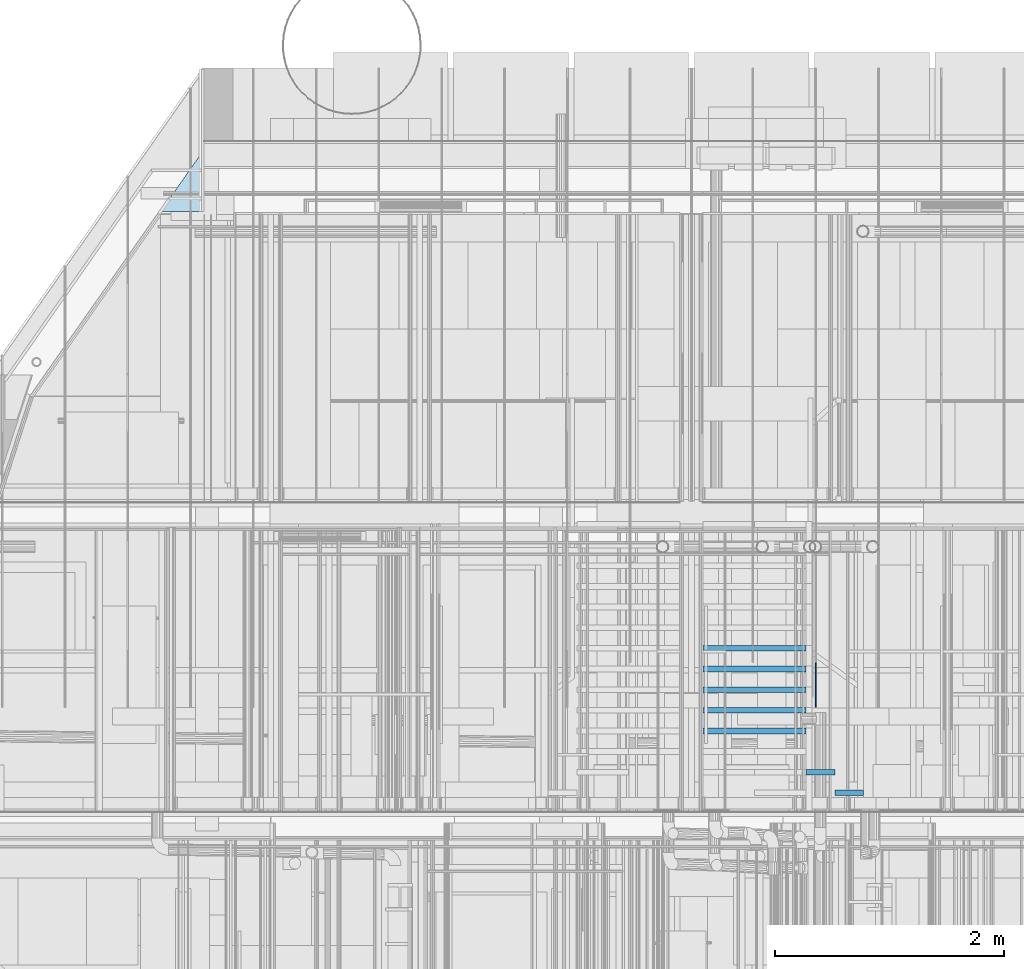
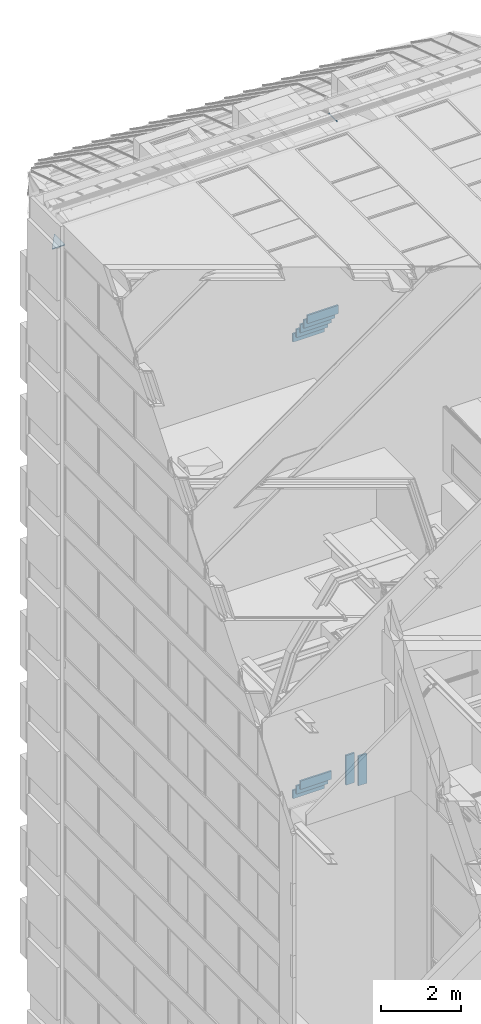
# One storey, part 308 of 583: 12 slabs.
"""IFC2X3 building model written with IfcOpenShell, lengths in metres."""

import ifcopenshell
import ifcopenshell.guid

model = None  # the IFC model being written
_history = None  # IfcOwnerHistory: only IFC2X3 demands one
_inside = {}  # id of a spatial element -> (the spatial element, [elements in it])
_under = {}  # id of a project, library or spatial element -> (it, [spatial elements below it])
_declared = {}  # id of a project -> (the project, [libraries it declares])
_typed = {}  # id of a type object -> (the type object, [elements of that type])
_made_of = {}  # id of a material, layer set ... -> (it, [elements and type objects made of it])


def new_model(schema):
    """Start an empty IFC model of exactly this schema.

    Asked for "IFC4X3", IfcOpenShell would pick the latest addendum, in which some entities
    have other attributes; the version numbers below select the first issue.
    IFC2X3 requires an IfcOwnerHistory on every rooted entity: one is made here for all.
    """
    global model, _history
    if schema == "IFC4X3":
        model = ifcopenshell.file(schema_version=(4, 3, 0, 0))
    else:
        model = ifcopenshell.file(schema=schema)
    _inside.clear()
    _under.clear()
    _declared.clear()
    _typed.clear()
    _made_of.clear()
    _history = None
    if model.schema == "IFC2X3":
        org = make("IfcOrganization", Name="unknown")
        user = make(
            "IfcPersonAndOrganization",
            ThePerson=make("IfcPerson", FamilyName="unknown"),
            TheOrganization=org,
        )
        app = make(
            "IfcApplication",
            ApplicationDeveloper=org,
            Version="unknown",
            ApplicationFullName="unknown",
            ApplicationIdentifier="unknown",
        )
        _history = make(
            "IfcOwnerHistory",
            OwningUser=user,
            OwningApplication=app,
            ChangeAction="ADDED",
            CreationDate=0,
        )
    return model


def make(cls, **values):
    """One entity of the class cls with the attributes given. An attribute that is None is left unset."""
    return model.create_entity(
        cls, **{name: value for name, value in values.items() if value is not None}
    )


def entity(cls, *values):
    """Any entity or typed value of the class cls, its attributes in the order of the schema. None: left unset."""
    e = model.create_entity(cls)
    for i, value in enumerate(values):
        if value is not None:
            e[i] = value
    return e


def rooted(cls, **values):
    """An entity with a GlobalId (a new one), such as an element, a storey or a relation."""
    return make(cls, GlobalId=ifcopenshell.guid.new(), OwnerHistory=_history, **values)


def si_unit(unit_type, name, prefix=None):
    """IfcSIUnit, for example si_unit("LENGTHUNIT", "METRE", prefix="MILLI")."""
    return make("IfcSIUnit", UnitType=unit_type, Prefix=prefix, Name=name)


def converted_unit(unit_type, name, factor, base, dimensions=None, offset=None):
    """IfcConversionBasedUnit, such as the inch: factor (a typed value) times the base unit."""
    return make(
        "IfcConversionBasedUnit"
        if offset is None
        else "IfcConversionBasedUnitWithOffset",
        ConversionOffset=offset,
        Dimensions=None
        if dimensions is None
        else entity("IfcDimensionalExponents", *dimensions),
        UnitType=unit_type,
        Name=name,
        ConversionFactor=make(
            "IfcMeasureWithUnit", ValueComponent=factor, UnitComponent=base
        ),
    )


def derived_unit(unit_type, elements):
    """IfcDerivedUnit: a product of units, each with its exponent."""
    return make(
        "IfcDerivedUnit",
        Elements=[
            make("IfcDerivedUnitElement", Unit=unit, Exponent=power)
            for unit, power in elements
        ],
        UnitType=unit_type,
    )


def money_unit(currency):
    """IfcMonetaryUnit."""
    return make("IfcMonetaryUnit", Currency=currency)


def assignment(units):
    """IfcUnitAssignment: the units of a project."""
    return None if units is None else make("IfcUnitAssignment", Units=units)


def point(xyz):
    """IfcCartesianPoint."""
    return None if xyz is None else make("IfcCartesianPoint", Coordinates=xyz)


def direction(xyz):
    """IfcDirection."""
    return None if xyz is None else make("IfcDirection", DirectionRatios=xyz)


def frame(location, z_axis=None, x_axis=None):
    """IfcAxis2Placement3D, a coordinate frame: its origin and axes. An axis left out is left unset."""
    return make(
        "IfcAxis2Placement3D",
        Location=point(location),
        Axis=direction(z_axis),
        RefDirection=direction(x_axis),
    )


def origin_with_axes():
    """The frame at (0, 0, 0) with the z axis (0, 0, 1) and the x axis (1, 0, 0) written out."""
    return frame((0.0, 0.0, 0.0), z_axis=(0.0, 0.0, 1.0), x_axis=(1.0, 0.0, 0.0))


def place(relative_to, where):
    """IfcLocalPlacement: puts the frame where relative to a parent placement (None: the world)."""
    return make(
        "IfcLocalPlacement", PlacementRelTo=relative_to, RelativePlacement=where
    )


def context(
    kind, dimensions, precision=None, world=None, true_north=None, identifier=None
):
    """IfcGeometricRepresentationContext, for example the 3D "Model" context."""
    return make(
        "IfcGeometricRepresentationContext",
        ContextIdentifier=identifier,
        ContextType=kind,
        CoordinateSpaceDimension=dimensions,
        Precision=precision,
        WorldCoordinateSystem=world,
        TrueNorth=true_north,
    )


def subcontext(parent, identifier, kind, view, scale=None):
    """IfcGeometricRepresentationSubContext, for example "Body" below "Model"."""
    return make(
        "IfcGeometricRepresentationSubContext",
        ContextIdentifier=identifier,
        ContextType=kind,
        ParentContext=parent,
        TargetScale=scale,
        TargetView=view,
    )


def project(units=None, contexts=None):
    """IfcProject with its units and contexts."""
    return rooted(
        "IfcProject",
        Name="project",
        RepresentationContexts=contexts,
        UnitsInContext=assignment(units),
    )


def spatial(cls, under=None, at=None, **own):
    """A site, building, storey or space (cls), placed at a placement, below another one or the project."""
    s = rooted(cls, ObjectPlacement=at, **own)
    if under is not None:
        _under.setdefault(under.id(), (under, []))[1].append(s)
    return s


def faces_of(points, faces, orient=None, outer=None):
    """IfcFace entities. A face is a list of loops; a loop is a list of indices into points, from 0.

    orient and outer hold one flag for each loop. By default every Orientation is true, the
    first loop of a face is its IfcFaceOuterBound and the others are IfcFaceBound.
    """
    made = []
    for i, loops in enumerate(faces):
        bounds = []
        for j, loop in enumerate(loops):
            is_outer = j == 0 if outer is None else outer[i][j]
            bounds.append(
                make(
                    "IfcFaceOuterBound" if is_outer else "IfcFaceBound",
                    Bound=make("IfcPolyLoop", Polygon=[points[k] for k in loop]),
                    Orientation=True if orient is None else orient[i][j],
                )
            )
        made.append(make("IfcFace", Bounds=bounds))
    return made


def faceted_brep(points, faces, orient=None, outer=None, voids=None):
    """IfcFacetedBrep: a solid bounded by flat faces; with voids (closed shells), ...WithVoids."""
    shared = [point(p) for p in points]
    hull = make("IfcClosedShell", CfsFaces=faces_of(shared, faces, orient, outer))
    if voids is None:
        return make("IfcFacetedBrep", Outer=hull)
    return make(
        "IfcFacetedBrepWithVoids",
        Outer=hull,
        Voids=[
            make(cls, CfsFaces=faces_of(shared, fs, o, b)) for cls, fs, o, b in voids
        ],
    )


def shape(context_of_items, identifier, shape_type, items):
    """IfcShapeRepresentation: the items that make up one representation, for example the "Body"."""
    return make(
        "IfcShapeRepresentation",
        ContextOfItems=context_of_items,
        RepresentationIdentifier=identifier,
        RepresentationType=shape_type,
        Items=items,
    )


def material(Name=None, Category=None):
    """IfcMaterial."""
    return make("IfcMaterial", Name=Name, Category=Category)


def made_of(thing, what):
    """Note that an element or type object is made of a material, layer set ...; save() writes the relation."""
    if what is not None:
        _made_of.setdefault(what.id(), (what, []))[1].append(thing)
    return thing


def type_object(cls, material=None, **own):
    """A type object (cls), such as IfcWallType, which elements share."""
    return made_of(rooted(cls, **own), material)


def element(
    cls,
    number,
    at=None,
    inside=None,
    cuts=None,
    type_object=None,
    material=None,
    context=None,
    identifier="Body",
    shape_type=None,
    held_by="IfcProductDefinitionShape",
    body=None,
    shapes=None,
    **own,
):
    """One element of the class cls, such as IfcWall. Its Tag is "e" and its number.

    at: its placement. inside: the storey or other place that contains it. cuts: it is an
    opening in that element (IfcRelVoidsElement). A single representation is given by context,
    identifier, shape_type and body (its items); several are given by shapes. held_by: the class
    of the entity that holds the representations. save() writes the other relations.
    """
    e = rooted(cls, Tag="e%d" % number, ObjectPlacement=at, **own)
    if body is not None:
        shapes = [shape(context, identifier, shape_type, body)]
    if shapes is not None:
        e.Representation = make(held_by, Representations=shapes)
    if inside is not None:
        _inside.setdefault(inside.id(), (inside, []))[1].append(e)
    if cuts is not None:
        rooted(
            "IfcRelVoidsElement", RelatingBuildingElement=cuts, RelatedOpeningElement=e
        )
    if type_object is not None:
        _typed.setdefault(type_object.id(), (type_object, []))[1].append(e)
    return made_of(e, material)


def aggregate(whole, parts):
    """IfcRelAggregates: a whole, such as a stair, and the parts it consists of."""
    return rooted("IfcRelAggregates", RelatingObject=whole, RelatedObjects=parts)


def save(model, path):
    """Write the relations noted so far, then the file.

    IfcRelAggregates (storeys below a building ...), IfcRelContainedInSpatialStructure (elements
    in a storey), IfcRelDefinesByType, IfcRelAssociatesMaterial and IfcRelDeclares: one each for
    every whole, place, type object, material and project.
    """
    for whole, parts in _under.values():
        aggregate(whole, parts)
    for where, things in _inside.values():
        rooted(
            "IfcRelContainedInSpatialStructure",
            RelatedElements=things,
            RelatingStructure=where,
        )
    for kind, things in _typed.values():
        rooted("IfcRelDefinesByType", RelatedObjects=things, RelatingType=kind)
    for what, things in _made_of.values():
        rooted("IfcRelAssociatesMaterial", RelatedObjects=things, RelatingMaterial=what)
    for by, libraries in _declared.values():
        rooted("IfcRelDeclares", RelatingContext=by, RelatedDefinitions=libraries)
    model.write(path)


model = new_model("IFC2X3")

# Units and contexts
model_context = context("Model", 3, precision=1e-05, world=origin_with_axes(), true_north=direction((0.0, 1.0)))
body_context = subcontext(model_context, "Body", "Model", "MODEL_VIEW", scale=1.0)
ifc_project = project(units=[si_unit("LENGTHUNIT", "METRE"), si_unit("AREAUNIT", "SQUARE_METRE"), si_unit("VOLUMEUNIT", "CUBIC_METRE"), si_unit("ABSORBEDDOSEUNIT", "GRAY"), si_unit("AMOUNTOFSUBSTANCEUNIT", "MOLE"), si_unit("DOSEEQUIVALENTUNIT", "SIEVERT"), si_unit("ELECTRICCAPACITANCEUNIT", "FARAD"), si_unit("ELECTRICCHARGEUNIT", "COULOMB"), si_unit("ELECTRICCONDUCTANCEUNIT", "SIEMENS"), si_unit("ELECTRICCURRENTUNIT", "AMPERE"), si_unit("ELECTRICRESISTANCEUNIT", "OHM"), si_unit("ELECTRICVOLTAGEUNIT", "VOLT"), si_unit("ENERGYUNIT", "JOULE"), si_unit("FORCEUNIT", "NEWTON"), si_unit("FREQUENCYUNIT", "HERTZ"), si_unit("ILLUMINANCEUNIT", "LUX"), si_unit("INDUCTANCEUNIT", "HENRY"), si_unit("LUMINOUSFLUXUNIT", "LUMEN"), si_unit("LUMINOUSINTENSITYUNIT", "CANDELA"), si_unit("MAGNETICFLUXDENSITYUNIT", "TESLA"), si_unit("MAGNETICFLUXUNIT", "WEBER"), si_unit("MASSUNIT", "GRAM"), converted_unit("PLANEANGLEUNIT", "degree", entity("IfcReal", 0.0174532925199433), si_unit("PLANEANGLEUNIT", "RADIAN"), dimensions=[0, 0, 0, 0, 0, 0, 0]), si_unit("POWERUNIT", "WATT"), si_unit("PRESSUREUNIT", "PASCAL"), si_unit("RADIOACTIVITYUNIT", "BECQUEREL"), si_unit("SOLIDANGLEUNIT", "STERADIAN"), si_unit("THERMODYNAMICTEMPERATUREUNIT", "KELVIN"), si_unit("TIMEUNIT", "SECOND"), derived_unit("ACCELERATIONUNIT", [(si_unit("LENGTHUNIT", "METRE"), 1), (si_unit("TIMEUNIT", "SECOND"), -2)]), derived_unit("ANGULARVELOCITYUNIT", [(converted_unit("PLANEANGLEUNIT", "degree", entity("IfcReal", 0.0174532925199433), si_unit("PLANEANGLEUNIT", "RADIAN"), dimensions=[0, 0, 0, 0, 0, 0, 0]), 1), (si_unit("TIMEUNIT", "SECOND"), -1)]), derived_unit("CURVATUREUNIT", [(converted_unit("PLANEANGLEUNIT", "degree", entity("IfcReal", 0.0174532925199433), si_unit("PLANEANGLEUNIT", "RADIAN"), dimensions=[0, 0, 0, 0, 0, 0, 0]), 1), (si_unit("LENGTHUNIT", "METRE"), -1)]), derived_unit("DYNAMICVISCOSITYUNIT", [(si_unit("PRESSUREUNIT", "PASCAL"), 1), (si_unit("TIMEUNIT", "SECOND"), 1)]), derived_unit("HEATFLUXDENSITYUNIT", [(si_unit("POWERUNIT", "WATT"), 1), (si_unit("LENGTHUNIT", "METRE"), -2)]), derived_unit("HEATINGVALUEUNIT", [(si_unit("ENERGYUNIT", "JOULE"), 1), (si_unit("MASSUNIT", "GRAM"), -1)]), derived_unit("INTEGERCOUNTRATEUNIT", [(si_unit("TIMEUNIT", "SECOND"), -1)]), derived_unit("IONCONCENTRATIONUNIT", [(si_unit("MASSUNIT", "GRAM"), 1), (si_unit("VOLUMEUNIT", "CUBIC_METRE"), -1)]), derived_unit("ISOTHERMALMOISTURECAPACITYUNIT", [(si_unit("VOLUMEUNIT", "CUBIC_METRE"), 1), (si_unit("MASSUNIT", "GRAM"), -1)]), derived_unit("KINEMATICVISCOSITYUNIT", [(si_unit("AREAUNIT", "SQUARE_METRE"), 1), (si_unit("TIMEUNIT", "SECOND"), -1)]), derived_unit("LINEARFORCEUNIT", [(si_unit("FORCEUNIT", "NEWTON"), 1), (si_unit("LENGTHUNIT", "METRE"), -1)]), derived_unit("LINEARMOMENTUNIT", [(si_unit("FORCEUNIT", "NEWTON"), 1), (si_unit("LENGTHUNIT", "METRE"), -1)]), derived_unit("LINEARSTIFFNESSUNIT", [(si_unit("FORCEUNIT", "NEWTON"), 1), (si_unit("LENGTHUNIT", "METRE"), -1)]), derived_unit("LINEARVELOCITYUNIT", [(si_unit("LENGTHUNIT", "METRE"), 1), (si_unit("TIMEUNIT", "SECOND"), -1)]), derived_unit("LUMINOUSINTENSITYDISTRIBUTIONUNIT", [(si_unit("LUMINOUSINTENSITYUNIT", "CANDELA"), 1), (si_unit("LUMINOUSFLUXUNIT", "LUMEN"), -1)]), derived_unit("MASSDENSITYUNIT", [(si_unit("MASSUNIT", "GRAM"), 1), (si_unit("VOLUMEUNIT", "CUBIC_METRE"), -1)]), derived_unit("MASSFLOWRATEUNIT", [(si_unit("MASSUNIT", "GRAM"), 1), (si_unit("TIMEUNIT", "SECOND"), -1)]), derived_unit("MASSPERLENGTHUNIT", [(si_unit("MASSUNIT", "GRAM"), 1), (si_unit("LENGTHUNIT", "METRE"), -1)]), derived_unit("MODULUSOFELASTICITYUNIT", [(si_unit("FORCEUNIT", "NEWTON"), 1), (si_unit("AREAUNIT", "SQUARE_METRE"), -1)]), derived_unit("MODULUSOFLINEARSUBGRADEREACTIONUNIT", [(si_unit("FORCEUNIT", "NEWTON"), 1), (si_unit("LENGTHUNIT", "METRE"), -2)]), derived_unit("MODULUSOFROTATIONALSUBGRADEREACTIONUNIT", [(si_unit("FORCEUNIT", "NEWTON"), 1), (si_unit("LENGTHUNIT", "METRE"), 1)]), derived_unit("MODULUSOFSUBGRADEREACTIONUNIT", [(si_unit("FORCEUNIT", "NEWTON"), 1), (si_unit("VOLUMEUNIT", "CUBIC_METRE"), -1)]), derived_unit("MOISTUREDIFFUSIVITYUNIT", [(si_unit("VOLUMEUNIT", "CUBIC_METRE"), 1), (si_unit("TIMEUNIT", "SECOND"), -1)]), derived_unit("MOLECULARWEIGHTUNIT", [(si_unit("MASSUNIT", "GRAM"), 1), (si_unit("AMOUNTOFSUBSTANCEUNIT", "MOLE"), -1)]), derived_unit("PLANARFORCEUNIT", [(si_unit("FORCEUNIT", "NEWTON"), 1), (si_unit("LENGTHUNIT", "METRE"), -2)]), derived_unit("ROTATIONALFREQUENCYUNIT", [(si_unit("TIMEUNIT", "SECOND"), -1)]), derived_unit("ROTATIONALMASSUNIT", [(si_unit("MASSUNIT", "GRAM"), 1), (si_unit("LENGTHUNIT", "METRE"), 2)]), derived_unit("ROTATIONALSTIFFNESSUNIT", [(si_unit("FORCEUNIT", "NEWTON"), 1), (si_unit("LENGTHUNIT", "METRE"), 1), (converted_unit("PLANEANGLEUNIT", "degree", entity("IfcReal", 0.0174532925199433), si_unit("PLANEANGLEUNIT", "RADIAN"), dimensions=[0, 0, 0, 0, 0, 0, 0]), -1)]), derived_unit("SECTIONAREAINTEGRALUNIT", [(si_unit("LENGTHUNIT", "METRE"), 5)]), derived_unit("SECTIONMODULUSUNIT", [(si_unit("LENGTHUNIT", "METRE"), 3)]), derived_unit("SHEARMODULUSUNIT", [(si_unit("FORCEUNIT", "NEWTON"), 1), (si_unit("AREAUNIT", "SQUARE_METRE"), -1)]), derived_unit("SOUNDPOWERUNIT", [(si_unit("ENERGYUNIT", "JOULE"), 1), (si_unit("TIMEUNIT", "SECOND"), -1)]), derived_unit("SPECIFICHEATCAPACITYUNIT", [(si_unit("FORCEUNIT", "NEWTON"), 1), (si_unit("MASSUNIT", "GRAM"), -1), (si_unit("THERMODYNAMICTEMPERATUREUNIT", "KELVIN"), -1)]), derived_unit("TEMPERATUREGRADIENTUNIT", [(si_unit("THERMODYNAMICTEMPERATUREUNIT", "KELVIN"), 1), (si_unit("LENGTHUNIT", "METRE"), -1)]), derived_unit("THERMALADMITTANCEUNIT", [(si_unit("POWERUNIT", "WATT"), 1), (si_unit("AREAUNIT", "SQUARE_METRE"), -1), (si_unit("THERMODYNAMICTEMPERATUREUNIT", "KELVIN"), -1)]), derived_unit("THERMALCONDUCTANCEUNIT", [(si_unit("POWERUNIT", "WATT"), 1), (si_unit("LENGTHUNIT", "METRE"), -1), (si_unit("THERMODYNAMICTEMPERATUREUNIT", "KELVIN"), -1)]), derived_unit("THERMALEXPANSIONCOEFFICIENTUNIT", [(si_unit("THERMODYNAMICTEMPERATUREUNIT", "KELVIN"), -1)]), derived_unit("THERMALRESISTANCEUNIT", [(si_unit("AREAUNIT", "SQUARE_METRE"), 1), (si_unit("POWERUNIT", "WATT"), -1)]), derived_unit("THERMALTRANSMITTANCEUNIT", [(si_unit("POWERUNIT", "WATT"), 1), (si_unit("AREAUNIT", "SQUARE_METRE"), -1), (si_unit("THERMODYNAMICTEMPERATUREUNIT", "KELVIN"), -1)]), derived_unit("TORQUEUNIT", [(si_unit("FORCEUNIT", "NEWTON"), 1), (si_unit("LENGTHUNIT", "METRE"), 1)]), derived_unit("VAPORPERMEABILITYUNIT", [(si_unit("MASSUNIT", "GRAM"), 1), (si_unit("TIMEUNIT", "SECOND"), -1)]), derived_unit("VOLUMETRICFLOWRATEUNIT", [(si_unit("VOLUMEUNIT", "CUBIC_METRE"), 1), (si_unit("TIMEUNIT", "SECOND"), -1)]), derived_unit("WARPINGCONSTANTUNIT", [(si_unit("LENGTHUNIT", "METRE"), 6)]), derived_unit("WARPINGMOMENTUNIT", [(si_unit("FORCEUNIT", "NEWTON"), 1), (si_unit("LENGTHUNIT", "METRE"), 2)]), money_unit("GBP")], contexts=[model_context])

# Site, building, storey
site_placement = place(None, origin_with_axes())
site = spatial("IfcSite", under=ifc_project, at=site_placement, Name="Site", CompositionType="ELEMENT")
building_placement = place(site_placement, origin_with_axes())
building = spatial("IfcBuilding", under=site, at=building_placement, Name="Building01", CompositionType="ELEMENT")
storey_placement = place(building_placement, frame((0.0, 0.0, 20.78), z_axis=(0.0, 0.0, 1.0), x_axis=(1.0, 0.0, 0.0)))
storey = spatial("IfcBuildingStorey", under=building, at=storey_placement, Name="RL", CompositionType="ELEMENT", Elevation=20.78)

# Slabs
ifc_material_1 = material(Name="A_BSUK_Slabs")
slab_type = type_object("IfcSlabType", Name="A-FloorsSlabs A_BSUK_Slabs", PredefinedType="FLOOR")
placement = place(storey_placement, frame((0.0, 0.0, -20.78), z_axis=(0.0, 0.0, 1.0), x_axis=(1.0, 0.0, 0.0)))
element("IfcSlab", 1, at=placement, inside=storey, type_object=slab_type, material=ifc_material_1, Name="A-FloorsSlabs A_BSUK_Slabs", ObjectType="CompoundSlabLeaf", context=body_context, shape_type="Brep", body=[
    faceted_brep([(7.549939, 16.37, 6.14), (7.549939, 16.42, 6.14), (7.549939, 16.42, 5.89), (7.549939, 16.37, 5.89), (8.449939, 16.37, 6.14), (8.449939, 16.42, 6.14), (8.449939, 16.37, 5.89), (8.449939, 16.42, 5.89)], [[[0, 1, 2, 3]], [[4, 5, 1, 0]], [[6, 7, 5, 4]], [[3, 2, 7, 6]], [[1, 5, 7, 2]], [[3, 6, 4, 0]]]),
])
element("IfcSlab", 2, at=placement, inside=storey, type_object=slab_type, material=ifc_material_1, Name="A-FloorsSlabs A_BSUK_Slabs", ObjectType="CompoundSlabLeaf", context=body_context, shape_type="Brep", body=[
    faceted_brep([(7.549939, 16.19, 6.39), (7.549939, 16.24, 6.39), (7.549939, 16.24, 6.14), (7.549939, 16.19, 6.14), (8.449939, 16.19, 6.39), (8.449939, 16.24, 6.39), (8.449939, 16.19, 6.14), (8.449939, 16.24, 6.14)], [[[0, 1, 2, 3]], [[4, 5, 1, 0]], [[6, 7, 5, 4]], [[3, 2, 7, 6]], [[1, 5, 7, 2]], [[3, 6, 4, 0]]]),
])
element("IfcSlab", 3, at=placement, inside=storey, type_object=slab_type, material=ifc_material_1, Name="A-FloorsSlabs A_BSUK_Slabs", ObjectType="CompoundSlabLeaf", context=body_context, shape_type="Brep", body=[
    faceted_brep([(7.549939, 16.01, 6.64), (7.549939, 16.06, 6.64), (7.549939, 16.06, 6.39), (7.549939, 16.01, 6.39), (8.449939, 16.01, 6.64), (8.449939, 16.06, 6.64), (8.449939, 16.01, 6.39), (8.449939, 16.06, 6.39)], [[[0, 1, 2, 3]], [[4, 5, 1, 0]], [[6, 7, 5, 4]], [[3, 2, 7, 6]], [[1, 5, 7, 2]], [[3, 6, 4, 0]]]),
])
element("IfcSlab", 4, at=placement, inside=storey, type_object=slab_type, material=ifc_material_1, Name="A-FloorsSlabs A_BSUK_Slabs", ObjectType="CompoundSlabLeaf", context=body_context, shape_type="Brep", body=[
    faceted_brep([(8.449939, 15.29, 6.64), (8.449939, 15.34, 6.64), (8.699939, 15.34, 6.64), (8.699939, 15.29, 6.64), (8.449939, 15.29, 7.54), (8.449939, 15.34, 7.54), (8.699939, 15.29, 7.54), (8.699939, 15.34, 7.54)], [[[0, 1, 2, 3]], [[4, 5, 1, 0]], [[6, 7, 5, 4]], [[3, 2, 7, 6]], [[1, 5, 7, 2]], [[3, 6, 4, 0]]]),
])
element("IfcSlab", 5, at=placement, inside=storey, type_object=slab_type, material=ifc_material_1, Name="A-FloorsSlabs A_BSUK_Slabs", ObjectType="CompoundSlabLeaf", context=body_context, shape_type="Brep", body=[
    faceted_brep([(8.699939, 15.11, 6.64), (8.699939, 15.16, 6.64), (8.949939, 15.16, 6.64), (8.949939, 15.11, 6.64), (8.699939, 15.11, 7.54), (8.699939, 15.16, 7.54), (8.949939, 15.11, 7.54), (8.949939, 15.16, 7.54)], [[[0, 1, 2, 3]], [[4, 5, 1, 0]], [[6, 7, 5, 4]], [[3, 2, 7, 6]], [[1, 5, 7, 2]], [[3, 6, 4, 0]]]),
])
element("IfcSlab", 6, at=placement, inside=storey, type_object=slab_type, material=ifc_material_1, Name="A-FloorsSlabs A_BSUK_Slabs", ObjectType="CompoundSlabLeaf", context=body_context, shape_type="Brep", body=[
    faceted_brep([(7.549915, 16.37, 20.039976), (7.549915, 16.42, 20.039976), (7.549915, 16.42, 19.789976), (7.549915, 16.37, 19.789976), (8.449915, 16.37, 20.039976), (8.449915, 16.42, 20.039976), (8.449915, 16.37, 19.789976), (8.449915, 16.42, 19.789976)], [[[0, 1, 2, 3]], [[4, 5, 1, 0]], [[6, 7, 5, 4]], [[3, 2, 7, 6]], [[1, 5, 7, 2]], [[3, 6, 4, 0]]]),
])
element("IfcSlab", 7, at=placement, inside=storey, type_object=slab_type, material=ifc_material_1, Name="A-FloorsSlabs A_BSUK_Slabs", ObjectType="CompoundSlabLeaf", context=body_context, shape_type="Brep", body=[
    faceted_brep([(7.549915, 16.19, 20.289976), (7.549915, 16.24, 20.289976), (7.549915, 16.24, 20.039976), (7.549915, 16.19, 20.039976), (8.449915, 16.19, 20.289976), (8.449915, 16.24, 20.289976), (8.449915, 16.19, 20.039976), (8.449915, 16.24, 20.039976)], [[[0, 1, 2, 3]], [[4, 5, 1, 0]], [[6, 7, 5, 4]], [[3, 2, 7, 6]], [[1, 5, 7, 2]], [[3, 6, 4, 0]]]),
])
element("IfcSlab", 8, at=placement, inside=storey, type_object=slab_type, material=ifc_material_1, Name="A-FloorsSlabs A_BSUK_Slabs", ObjectType="CompoundSlabLeaf", context=body_context, shape_type="Brep", body=[
    faceted_brep([(7.549915, 16.01, 20.539976), (7.549915, 16.06, 20.539976), (7.549915, 16.06, 20.289976), (7.549915, 16.01, 20.289976), (8.449915, 16.01, 20.539976), (8.449915, 16.06, 20.539976), (8.449915, 16.01, 20.289976), (8.449915, 16.06, 20.289976)], [[[0, 1, 2, 3]], [[4, 5, 1, 0]], [[6, 7, 5, 4]], [[3, 2, 7, 6]], [[1, 5, 7, 2]], [[3, 6, 4, 0]]]),
])
element("IfcSlab", 9, at=placement, inside=storey, type_object=slab_type, material=ifc_material_1, Name="A-FloorsSlabs A_BSUK_Slabs", ObjectType="CompoundSlabLeaf", context=body_context, shape_type="Brep", body=[
    faceted_brep([(7.549915, 15.83, 20.789976), (7.549915, 15.88, 20.789976), (7.549915, 15.88, 20.539976), (7.549915, 15.83, 20.539976), (8.449915, 15.83, 20.789976), (8.449915, 15.88, 20.789976), (8.449915, 15.83, 20.539976), (8.449915, 15.88, 20.539976)], [[[0, 1, 2, 3]], [[4, 5, 1, 0]], [[6, 7, 5, 4]], [[3, 2, 7, 6]], [[1, 5, 7, 2]], [[3, 6, 4, 0]]]),
])
element("IfcSlab", 10, at=placement, inside=storey, type_object=slab_type, material=ifc_material_1, Name="A-FloorsSlabs A_BSUK_Slabs", ObjectType="CompoundSlabLeaf", context=body_context, shape_type="Brep", body=[
    faceted_brep([(7.549915, 15.65, 21.039976), (7.549915, 15.7, 21.039976), (7.549915, 15.7, 20.789976), (7.549915, 15.65, 20.789976), (8.449915, 15.65, 21.039976), (8.449915, 15.7, 21.039976), (8.449915, 15.65, 20.789976), (8.449915, 15.7, 20.789976)], [[[0, 1, 2, 3]], [[4, 5, 1, 0]], [[6, 7, 5, 4]], [[3, 2, 7, 6]], [[1, 5, 7, 2]], [[3, 6, 4, 0]]]),
])
ifc_material_2 = material(Name="A_BSUK_Roofs")
slab_11_placement = place(storey_placement, frame((8.538453, 15.034499, 5.68), z_axis=(0.0, 1.0, 0.0), x_axis=(1.0, 0.0, 0.0)))
element("IfcSlab", 11, at=slab_11_placement, inside=storey, type_object=slab_type, material=ifc_material_2, Name="A-FloorsSlabs A_BSUK_Slabs", ObjectType="A-FloorsSlabs A_BSUK_Slabs", context=body_context, shape_type="Brep", body=[
    faceted_brep([(0.0, 0.0, 1.239928), (0.0, -0.02, 1.239928), (0.0, -0.02, 0.845501), (0.0, 0.0, 0.845501), (-0.01, -0.02, 0.845501), (-0.01, 0.0, 0.845501), (-0.01, -0.02, 1.239928), (-0.01, 0.0, 1.239928)], [[[0, 1, 2, 3]], [[3, 2, 4, 5]], [[5, 4, 6, 7]], [[7, 6, 1, 0]], [[1, 6, 4, 2]], [[3, 5, 7, 0]]]),
])
element("IfcSlab", 12, at=placement, inside=storey, type_object=slab_type, material=ifc_material_2, Name="A-FloorsSlabs A_BSUK_Slabs", ObjectType="CompoundSlabLeaf", context=body_context, shape_type="Brep", body=[
    faceted_brep([(2.820042, 20.205, 21.964976), (2.820042, 20.205, 21.939976), (3.199939, 20.205, 21.939976), (3.199939, 20.205, 21.964976), (3.2, 20.747636, 21.964976), (3.2, 20.747636, 21.939976)], [[[0, 1, 2, 3]], [[4, 5, 1, 0]], [[3, 2, 5, 4]], [[1, 5, 2]], [[3, 4, 0]]]),
])

save(model, "model.ifc")
